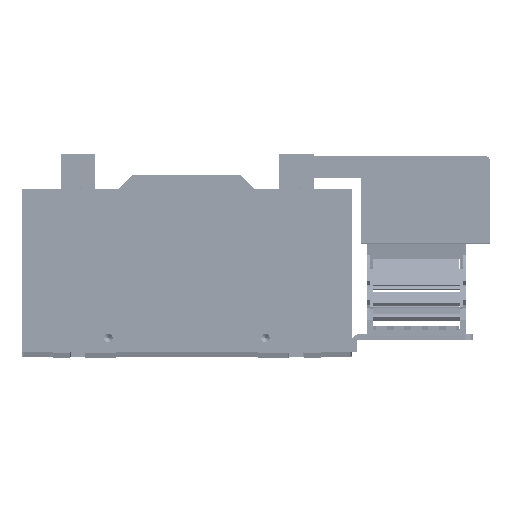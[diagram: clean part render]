
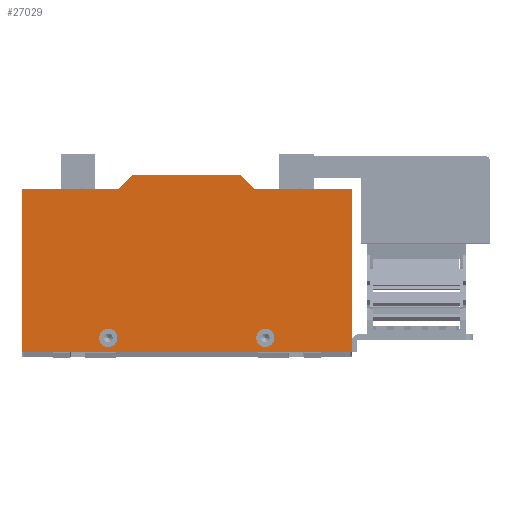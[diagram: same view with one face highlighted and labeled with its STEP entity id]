
A CAD part, top view. The second image highlights one B-rep face of the part: STEP entity #27029.
In plain terms, the highlighted planar face has unit normal (0, 0, 1) as drawn and (0, 0, -1) by its records, which use the part's own axes.
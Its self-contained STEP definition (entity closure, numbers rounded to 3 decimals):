
#1998 = VERTEX_POINT ( 'NONE', #96172 ) ;
#2051 = EDGE_CURVE ( 'NONE', #2332, #1998, #96409, .T. ) ;
#2332 = VERTEX_POINT ( 'NONE', #96620 ) ;
#12244 = ORIENTED_EDGE ( 'NONE', *, *, #12298, .F. ) ;
#12271 = ORIENTED_EDGE ( 'NONE', *, *, #12288, .F. ) ;
#12288 = EDGE_CURVE ( 'NONE', #25423, #26586, #103892, .T. ) ;
#12298 = EDGE_CURVE ( 'NONE', #26101, #12326, #103995, .T. ) ;
#12302 = ORIENTED_EDGE ( 'NONE', *, *, #25486, .T. ) ;
#12305 = ORIENTED_EDGE ( 'NONE', *, *, #12317, .F. ) ;
#12308 = ORIENTED_EDGE ( 'NONE', *, *, #27521, .T. ) ;
#12317 = EDGE_CURVE ( 'NONE', #12326, #27574, #103948, .T. ) ;
#12319 = ORIENTED_EDGE ( 'NONE', *, *, #26790, .T. ) ;
#12326 = VERTEX_POINT ( 'NONE', #104062 ) ;
#25423 = VERTEX_POINT ( 'NONE', #76886 ) ;
#25486 = EDGE_CURVE ( 'NONE', #26101, #26401, #76941, .T. ) ;
#26101 = VERTEX_POINT ( 'NONE', #79058 ) ;
#26401 = VERTEX_POINT ( 'NONE', #79507 ) ;
#26406 = VERTEX_POINT ( 'NONE', #79498 ) ;
#26574 = ORIENTED_EDGE ( 'NONE', *, *, #82344, .T. ) ;
#26578 = ORIENTED_EDGE ( 'NONE', *, *, #26584, .F. ) ;
#26584 = EDGE_CURVE ( 'NONE', #26586, #141605, #79781, .T. ) ;
#26586 = VERTEX_POINT ( 'NONE', #79777 ) ;
#26713 = ORIENTED_EDGE ( 'NONE', *, *, #2051, .F. ) ;
#26717 = EDGE_LOOP ( 'NONE', ( #26725, #26733 ) ) ;
#26725 = ORIENTED_EDGE ( 'NONE', *, *, #26728, .F. ) ;
#26728 = EDGE_CURVE ( 'NONE', #82802, #83428, #79997, .T. ) ;
#26733 = ORIENTED_EDGE ( 'NONE', *, *, #82950, .F. ) ;
#26740 = EDGE_LOOP ( 'NONE', ( #26574, #26578, #12271, #12308, #12305, #12244, #12302, #12319 ) ) ;
#26790 = EDGE_CURVE ( 'NONE', #26401, #26406, #80068, .T. ) ;
#26957 = ORIENTED_EDGE ( 'NONE', *, *, #26959, .F. ) ;
#26959 = EDGE_CURVE ( 'NONE', #1998, #2332, #80367, .T. ) ;
#27002 = EDGE_LOOP ( 'NONE', ( #26957, #26713 ) ) ;
#27029 = ADVANCED_FACE ( 'NONE', ( #80464, #80463, #80462 ), #80525, .F. ) ;
#27521 = EDGE_CURVE ( 'NONE', #25423, #27574, #80679, .T. ) ;
#27574 = VERTEX_POINT ( 'NONE', #80738 ) ;
#27577 = DIRECTION ( 'NONE',  ( 0., -1., 0. ) ) ;
#27578 = VECTOR ( 'NONE', #27577, 1000. ) ;
#27579 = CARTESIAN_POINT ( 'NONE',  ( 14.809, 84.299, 0. ) ) ;
#27580 = LINE ( 'NONE', #27579, #27578 ) ;
#27716 = CARTESIAN_POINT ( 'NONE',  ( -40.191, 76.299, 0. ) ) ;
#27804 = DIRECTION ( 'NONE',  ( -1., 0., 0. ) ) ;
#27805 = DIRECTION ( 'NONE',  ( 0., 0., -1. ) ) ;
#27806 = CARTESIAN_POINT ( 'NONE',  ( -34.941, 76.299, 0. ) ) ;
#27807 = AXIS2_PLACEMENT_3D ( 'NONE', #27806, #27805, #27804 ) ;
#27808 = CIRCLE ( 'NONE', #27807, 5.25 ) ;
#28814 = CARTESIAN_POINT ( 'NONE',  ( -29.691, 76.299, 0. ) ) ;
#76886 = CARTESIAN_POINT ( 'NONE',  ( -49.191, -17.701, 0. ) ) ;
#76938 = DIRECTION ( 'NONE',  ( 0., 1., 0. ) ) ;
#76939 = VECTOR ( 'NONE', #76938, 1000. ) ;
#76940 = CARTESIAN_POINT ( 'NONE',  ( -175.191, -17.701, 0. ) ) ;
#76941 = LINE ( 'NONE', #76940, #76939 ) ;
#79058 = CARTESIAN_POINT ( 'NONE',  ( -175.191, -9.701, 0. ) ) ;
#79498 = CARTESIAN_POINT ( 'NONE',  ( 14.809, 84.299, 0. ) ) ;
#79507 = CARTESIAN_POINT ( 'NONE',  ( -175.191, 84.299, 0. ) ) ;
#79777 = CARTESIAN_POINT ( 'NONE',  ( -41.191, -9.701, 0. ) ) ;
#79778 = DIRECTION ( 'NONE',  ( 1., 0., 0. ) ) ;
#79779 = VECTOR ( 'NONE', #79778, 1000. ) ;
#79780 = CARTESIAN_POINT ( 'NONE',  ( 14.809, -9.701, 0. ) ) ;
#79781 = LINE ( 'NONE', #79780, #79779 ) ;
#79993 = DIRECTION ( 'NONE',  ( -1., 0., 0. ) ) ;
#79994 = DIRECTION ( 'NONE',  ( 0., 0., -1. ) ) ;
#79995 = CARTESIAN_POINT ( 'NONE',  ( -34.941, 76.299, 0. ) ) ;
#79996 = AXIS2_PLACEMENT_3D ( 'NONE', #79995, #79994, #79993 ) ;
#79997 = CIRCLE ( 'NONE', #79996, 5.25 ) ;
#80065 = DIRECTION ( 'NONE',  ( 1., 0., 0. ) ) ;
#80066 = VECTOR ( 'NONE', #80065, 1000. ) ;
#80067 = CARTESIAN_POINT ( 'NONE',  ( -175.191, 84.299, 0. ) ) ;
#80068 = LINE ( 'NONE', #80067, #80066 ) ;
#80363 = DIRECTION ( 'NONE',  ( -1., 0., 0. ) ) ;
#80364 = DIRECTION ( 'NONE',  ( 0., 0., -1. ) ) ;
#80365 = CARTESIAN_POINT ( 'NONE',  ( -125.441, 76.299, 0. ) ) ;
#80366 = AXIS2_PLACEMENT_3D ( 'NONE', #80365, #80364, #80363 ) ;
#80367 = CIRCLE ( 'NONE', #80366, 5.25 ) ;
#80462 = FACE_OUTER_BOUND ( 'NONE', #26740, .T. ) ;
#80463 = FACE_BOUND ( 'NONE', #26717, .T. ) ;
#80464 = FACE_BOUND ( 'NONE', #27002, .T. ) ;
#80521 = DIRECTION ( 'NONE',  ( 1., 0., 0. ) ) ;
#80522 = DIRECTION ( 'NONE',  ( 0., 0., 1. ) ) ;
#80523 = CARTESIAN_POINT ( 'NONE',  ( -175.191, 84.299, 0. ) ) ;
#80524 = AXIS2_PLACEMENT_3D ( 'NONE', #80523, #80522, #80521 ) ;
#80525 = PLANE ( 'NONE',  #80524 ) ;
#80676 = DIRECTION ( 'NONE',  ( -1., 0., 0. ) ) ;
#80677 = VECTOR ( 'NONE', #80676, 1000. ) ;
#80678 = CARTESIAN_POINT ( 'NONE',  ( 14.809, -17.701, 0. ) ) ;
#80679 = LINE ( 'NONE', #80678, #80677 ) ;
#80738 = CARTESIAN_POINT ( 'NONE',  ( -111.191, -17.701, 0. ) ) ;
#82344 = EDGE_CURVE ( 'NONE', #26406, #141605, #27580, .T. ) ;
#82802 = VERTEX_POINT ( 'NONE', #27716 ) ;
#82950 = EDGE_CURVE ( 'NONE', #83428, #82802, #27808, .T. ) ;
#83428 = VERTEX_POINT ( 'NONE', #28814 ) ;
#96172 = CARTESIAN_POINT ( 'NONE',  ( -130.691, 76.299, 0. ) ) ;
#96403 = DIRECTION ( 'NONE',  ( -1., 0., 0. ) ) ;
#96404 = DIRECTION ( 'NONE',  ( 0., 0., -1. ) ) ;
#96405 = CARTESIAN_POINT ( 'NONE',  ( -125.441, 76.299, 0. ) ) ;
#96407 = AXIS2_PLACEMENT_3D ( 'NONE', #96405, #96404, #96403 ) ;
#96409 = CIRCLE ( 'NONE', #96407, 5.25 ) ;
#96620 = CARTESIAN_POINT ( 'NONE',  ( -120.191, 76.299, 0. ) ) ;
#103889 = DIRECTION ( 'NONE',  ( 0.707, 0.707, 0. ) ) ;
#103890 = VECTOR ( 'NONE', #103889, 1000. ) ;
#103891 = CARTESIAN_POINT ( 'NONE',  ( -41.191, -9.701, 0. ) ) ;
#103892 = LINE ( 'NONE', #103891, #103890 ) ;
#103943 = DIRECTION ( 'NONE',  ( 0.707, -0.707, 0. ) ) ;
#103945 = VECTOR ( 'NONE', #103943, 1000. ) ;
#103947 = CARTESIAN_POINT ( 'NONE',  ( -111.191, -17.701, 0. ) ) ;
#103948 = LINE ( 'NONE', #103947, #103945 ) ;
#103989 = DIRECTION ( 'NONE',  ( 1., 0., 0. ) ) ;
#103991 = VECTOR ( 'NONE', #103989, 1000. ) ;
#103993 = CARTESIAN_POINT ( 'NONE',  ( -119.191, -9.701, 0. ) ) ;
#103995 = LINE ( 'NONE', #103993, #103991 ) ;
#104062 = CARTESIAN_POINT ( 'NONE',  ( -119.191, -9.701, 0. ) ) ;
#128886 = CARTESIAN_POINT ( 'NONE',  ( 14.809, -9.701, 0. ) ) ;
#141605 = VERTEX_POINT ( 'NONE', #128886 ) ;
